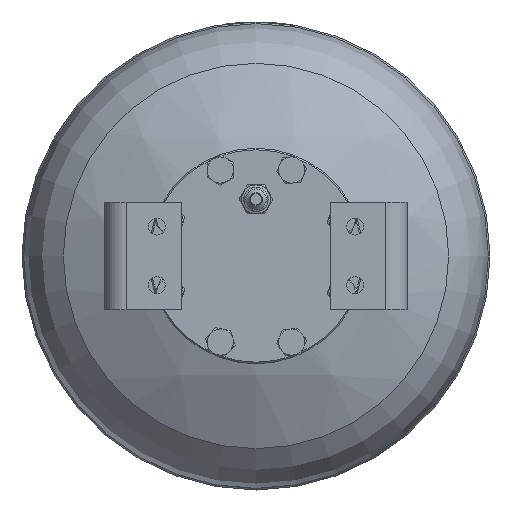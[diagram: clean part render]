
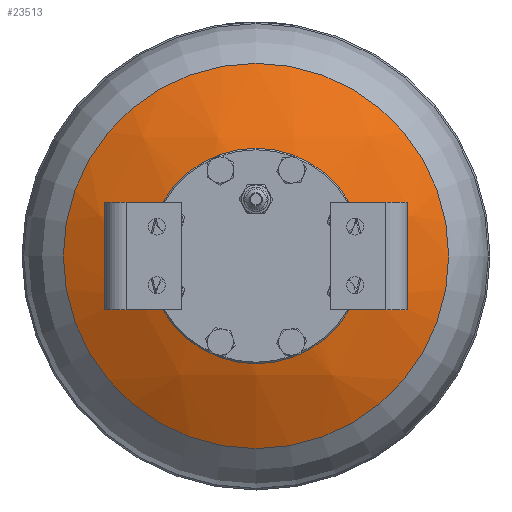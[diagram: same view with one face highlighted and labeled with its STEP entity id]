
A CAD part, front view. The second image highlights one B-rep face of the part: STEP entity #23513.
In plain terms, the highlighted spherical face has radius 244 mm.
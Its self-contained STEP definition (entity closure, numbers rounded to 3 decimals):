
#23=SPHERICAL_SURFACE('',#25260,244.);
#4985=FACE_BOUND('',#7855,.T.);
#6353=FACE_OUTER_BOUND('',#7854,.T.);
#7854=EDGE_LOOP('',(#20288));
#7855=EDGE_LOOP('',(#20289));
#8700=CIRCLE('',#25137,54.396);
#8767=CIRCLE('',#25261,125.194);
#10765=VERTEX_POINT('',#47324);
#10888=VERTEX_POINT('',#47834);
#13962=EDGE_CURVE('',#10765,#10765,#8700,.T.);
#14125=EDGE_CURVE('',#10888,#10888,#8767,.T.);
#20288=ORIENTED_EDGE('',*,*,#14125,.F.);
#20289=ORIENTED_EDGE('',*,*,#13962,.T.);
#23513=ADVANCED_FACE('',(#6353,#4985),#23,.T.);
#25137=AXIS2_PLACEMENT_3D('',#47325,#29665,#29666);
#25260=AXIS2_PLACEMENT_3D('',#47833,#29957,#29958);
#25261=AXIS2_PLACEMENT_3D('',#47835,#29959,#29960);
#29665=DIRECTION('center_axis',(0.,1.,0.));
#29666=DIRECTION('ref_axis',(0.,0.,1.));
#29957=DIRECTION('center_axis',(0.,0.,
1.));
#29958=DIRECTION('ref_axis',(-1.,0.,0.));
#29959=DIRECTION('center_axis',(0.,1.,0.));
#29960=DIRECTION('ref_axis',(1.,0.,0.));
#47324=CARTESIAN_POINT('',(0.,-154.059,-54.396));
#47325=CARTESIAN_POINT('Origin',(0.,-154.059,0.));
#47833=CARTESIAN_POINT('Origin',(0.,83.8,
0.));
#47834=CARTESIAN_POINT('',(125.194,-125.634,0.));
#47835=CARTESIAN_POINT('Origin',(0.,-125.634,
0.));
